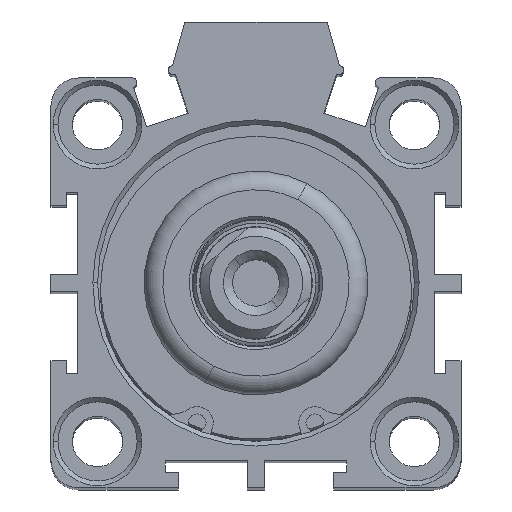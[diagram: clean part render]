
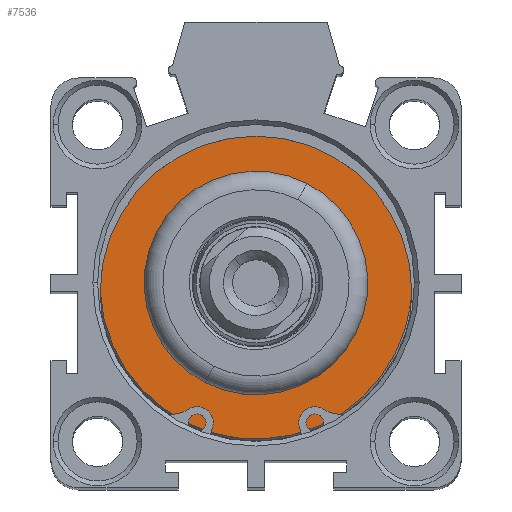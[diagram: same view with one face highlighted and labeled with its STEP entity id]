
A CAD part, top view. The second image highlights one B-rep face of the part: STEP entity #7536.
In plain terms, the highlighted planar face has unit normal (0, 0, 1) as drawn and (1, 0, 0) by its records, which use the part's own axes.
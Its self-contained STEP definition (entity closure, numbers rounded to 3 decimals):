
#127 = DIRECTION ( 'NONE',  ( -1., 0., 0. ) ) ;
#433 = CARTESIAN_POINT ( 'NONE',  ( 4.5, 0., 12. ) ) ;
#1663 = DIRECTION ( 'NONE',  ( 0., 0., 1. ) ) ;
#2032 = AXIS2_PLACEMENT_3D ( 'NONE', #19855, #9337, #4271 ) ;
#2486 = EDGE_CURVE ( 'NONE', #17713, #3559, #10433, .T. ) ;
#2599 = CARTESIAN_POINT ( 'NONE',  ( 4.5, 0., 0. ) ) ;
#3559 = VERTEX_POINT ( 'NONE', #10693 ) ;
#3652 = EDGE_LOOP ( 'NONE', ( #16848, #9469 ) ) ;
#3654 = EDGE_CURVE ( 'NONE', #4909, #14871, #13262, .T. ) ;
#4259 = FACE_OUTER_BOUND ( 'NONE', #3652, .T. ) ;
#4260 = CIRCLE ( 'NONE', #19718, 16.75 ) ;
#4271 = DIRECTION ( 'NONE',  ( 0., 0., 1. ) ) ;
#4322 = FACE_BOUND ( 'NONE', #4435, .T. ) ;
#4328 = CARTESIAN_POINT ( 'NONE',  ( 4.5, 0., 16.75 ) ) ;
#4435 = EDGE_LOOP ( 'NONE', ( #15703, #5391 ) ) ;
#4909 = VERTEX_POINT ( 'NONE', #16403 ) ;
#5391 = ORIENTED_EDGE ( 'NONE', *, *, #3654, .T. ) ;
#5883 = CIRCLE ( 'NONE', #2032, 12. ) ;
#6020 = AXIS2_PLACEMENT_3D ( 'NONE', #18739, #10992, #14075 ) ;
#7200 = AXIS2_PLACEMENT_3D ( 'NONE', #14714, #10065, #19235 ) ;
#7536 = ADVANCED_FACE ( 'NONE', ( #4259, #4322 ), #9415, .F. ) ;
#9337 = DIRECTION ( 'NONE',  ( -1., 0., 0. ) ) ;
#9415 = PLANE ( 'NONE',  #13966 ) ;
#9469 = ORIENTED_EDGE ( 'NONE', *, *, #11779, .F. ) ;
#10065 = DIRECTION ( 'NONE',  ( -1., 0., 0. ) ) ;
#10433 = CIRCLE ( 'NONE', #6020, 16.75 ) ;
#10693 = CARTESIAN_POINT ( 'NONE',  ( 4.5, 0., -16.75 ) ) ;
#10992 = DIRECTION ( 'NONE',  ( -1., 0., 0. ) ) ;
#11779 = EDGE_CURVE ( 'NONE', #3559, #17713, #4260, .T. ) ;
#11837 = DIRECTION ( 'NONE',  ( 0., 0., 1. ) ) ;
#13262 = CIRCLE ( 'NONE', #7200, 12. ) ;
#13966 = AXIS2_PLACEMENT_3D ( 'NONE', #17139, #127, #1663 ) ;
#14075 = DIRECTION ( 'NONE',  ( 0., 0., 1. ) ) ;
#14714 = CARTESIAN_POINT ( 'NONE',  ( 4.5, 0., 0. ) ) ;
#14871 = VERTEX_POINT ( 'NONE', #433 ) ;
#15703 = ORIENTED_EDGE ( 'NONE', *, *, #17036, .T. ) ;
#16403 = CARTESIAN_POINT ( 'NONE',  ( 4.5, 0., -12. ) ) ;
#16848 = ORIENTED_EDGE ( 'NONE', *, *, #2486, .F. ) ;
#17036 = EDGE_CURVE ( 'NONE', #14871, #4909, #5883, .T. ) ;
#17139 = CARTESIAN_POINT ( 'NONE',  ( 4.5, 16.75, 0. ) ) ;
#17713 = VERTEX_POINT ( 'NONE', #4328 ) ;
#18414 = DIRECTION ( 'NONE',  ( -1., 0., 0. ) ) ;
#18739 = CARTESIAN_POINT ( 'NONE',  ( 4.5, 0., 0. ) ) ;
#19235 = DIRECTION ( 'NONE',  ( 0., 0., 1. ) ) ;
#19718 = AXIS2_PLACEMENT_3D ( 'NONE', #2599, #18414, #11837 ) ;
#19855 = CARTESIAN_POINT ( 'NONE',  ( 4.5, 0., 0. ) ) ;
